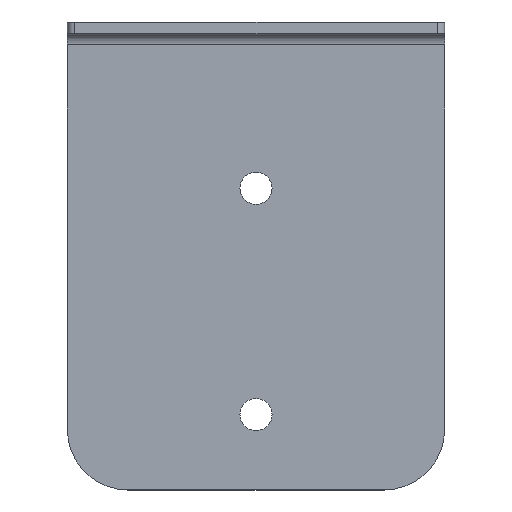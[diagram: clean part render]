
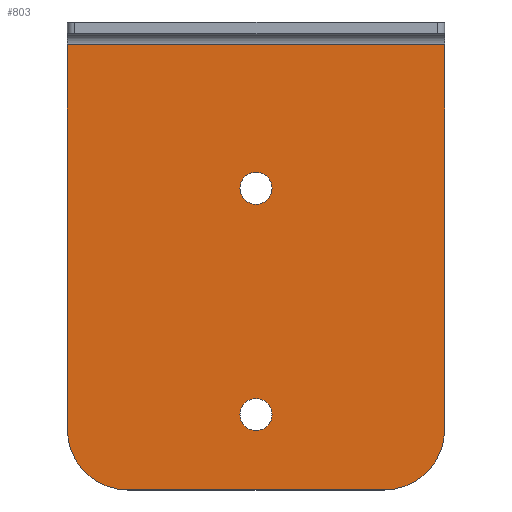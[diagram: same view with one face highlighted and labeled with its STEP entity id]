
A CAD part, top view. The second image highlights one B-rep face of the part: STEP entity #803.
In plain terms, the highlighted planar face has unit normal (0, 0, 1).
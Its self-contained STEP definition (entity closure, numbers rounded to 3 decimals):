
#124=CARTESIAN_POINT('',(50.0,-6.0,3.));
#125=VERTEX_POINT('',#124);
#133=CARTESIAN_POINT('',(50.0,-108.0,3.));
#134=VERTEX_POINT('',#133);
#135=CARTESIAN_POINT('',(50.0,-6.0,3.));
#136=DIRECTION('',(0.0,-1.0,0.0));
#137=VECTOR('',#136,102.0);
#138=LINE('',#135,#137);
#139=EDGE_CURVE('',#125,#134,#138,.T.);
#351=CARTESIAN_POINT('',(-50.0,-108.0,3.));
#352=VERTEX_POINT('',#351);
#359=CARTESIAN_POINT('',(-50.0,-6.0,3.));
#360=VERTEX_POINT('',#359);
#361=CARTESIAN_POINT('',(-50.0,-108.0,3.));
#362=DIRECTION('',(0.0,1.0,0.0));
#363=VECTOR('',#362,102.0);
#364=LINE('',#361,#363);
#365=EDGE_CURVE('',#352,#360,#364,.T.);
#383=CARTESIAN_POINT('',(34.,-124.0,3.));
#384=VERTEX_POINT('',#383);
#385=CARTESIAN_POINT('',(34.,-108.0,3.));
#386=DIRECTION('',(0.0,0.0,-1.0));
#387=DIRECTION('',(0.707,-0.707,0.0));
#388=AXIS2_PLACEMENT_3D('',#385,#386,#387);
#389=CIRCLE('',#388,16.0);
#390=EDGE_CURVE('',#134,#384,#389,.T.);
#470=CARTESIAN_POINT('',(-34.,-124.0,3.));
#471=VERTEX_POINT('',#470);
#472=CARTESIAN_POINT('',(-34.,-108.0,3.));
#473=DIRECTION('',(0.0,0.0,-1.0));
#474=DIRECTION('',(-0.707,-0.707,0.0));
#475=AXIS2_PLACEMENT_3D('',#472,#473,#474);
#476=CIRCLE('',#475,16.0);
#477=EDGE_CURVE('',#471,#352,#476,.T.);
#741=CARTESIAN_POINT('',(50.0,-6.0,3.));
#742=DIRECTION('',(-1.0,0.0,0.0));
#743=VECTOR('',#742,100.0);
#744=LINE('',#741,#743);
#745=EDGE_CURVE('',#125,#360,#744,.T.);
#763=CARTESIAN_POINT('',(0.0,-62.,3.));
#764=DIRECTION('',(0.0,0.0,1.0));
#765=DIRECTION('',(1.0,0.0,0.0));
#766=AXIS2_PLACEMENT_3D('',#763,#764,#765);
#767=PLANE('',#766);
#768=ORIENTED_EDGE('',*,*,#390,.F.);
#769=ORIENTED_EDGE('',*,*,#139,.F.);
#770=ORIENTED_EDGE('',*,*,#745,.T.);
#771=ORIENTED_EDGE('',*,*,#365,.F.);
#772=ORIENTED_EDGE('',*,*,#477,.F.);
#773=CARTESIAN_POINT('',(34.,-124.0,3.));
#774=DIRECTION('',(-1.0,0.0,0.0));
#775=VECTOR('',#774,68.0);
#776=LINE('',#773,#775);
#777=EDGE_CURVE('',#384,#471,#776,.T.);
#778=ORIENTED_EDGE('',*,*,#777,.F.);
#779=EDGE_LOOP('',(#768,#769,#770,#771,#772,#778));
#780=FACE_OUTER_BOUND('',#779,.T.);
#781=CARTESIAN_POINT('',(4.25,-44.0,3.));
#782=VERTEX_POINT('',#781);
#783=CARTESIAN_POINT('',(0.0,-44.0,3.));
#784=DIRECTION('',(0.0,0.0,-1.0));
#785=DIRECTION('',(-1.0,0.0,0.0));
#786=AXIS2_PLACEMENT_3D('',#783,#784,#785);
#787=CIRCLE('',#786,4.25);
#788=EDGE_CURVE('',#782,#782,#787,.T.);
#789=ORIENTED_EDGE('',*,*,#788,.T.);
#790=EDGE_LOOP('',(#789));
#791=FACE_BOUND('',#790,.T.);
#792=CARTESIAN_POINT('',(4.25,-104.0,3.));
#793=VERTEX_POINT('',#792);
#794=CARTESIAN_POINT('',(0.0,-104.0,3.));
#795=DIRECTION('',(0.0,0.0,-1.0));
#796=DIRECTION('',(-1.0,0.0,0.0));
#797=AXIS2_PLACEMENT_3D('',#794,#795,#796);
#798=CIRCLE('',#797,4.25);
#799=EDGE_CURVE('',#793,#793,#798,.T.);
#800=ORIENTED_EDGE('',*,*,#799,.T.);
#801=EDGE_LOOP('',(#800));
#802=FACE_BOUND('',#801,.T.);
#803=ADVANCED_FACE('',(#780,#791,#802),#767,.T.);
